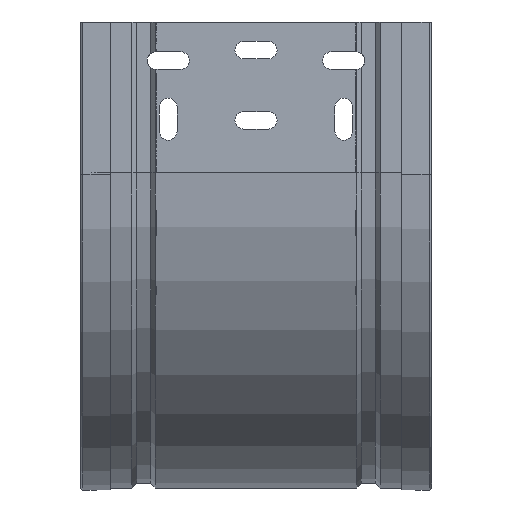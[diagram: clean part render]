
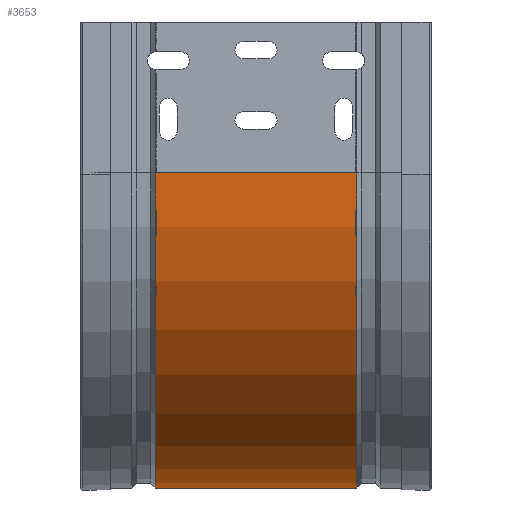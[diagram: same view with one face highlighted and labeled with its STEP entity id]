
A CAD part, front view. The second image highlights one B-rep face of the part: STEP entity #3653.
In plain terms, the highlighted cylindrical face has radius 134.8 mm (diameter 269.6 mm), a partial arc.
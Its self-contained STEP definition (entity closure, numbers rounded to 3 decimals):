
#239 = DIRECTION ( 'NONE',  ( 0., 0., -1. ) ) ;
#342 = DIRECTION ( 'NONE',  ( 1., 0., 0. ) ) ;
#422 = CARTESIAN_POINT ( 'NONE',  ( -31., -0.8, -64.4 ) ) ;
#479 = DIRECTION ( 'NONE',  ( 1., 0., 0. ) ) ;
#911 = DIRECTION ( 'NONE',  ( 1., 0., 0. ) ) ;
#925 = VERTEX_POINT ( 'NONE', #4881 ) ;
#1254 = VECTOR ( 'NONE', #342, 1000. ) ;
#1277 = ORIENTED_EDGE ( 'NONE', *, *, #5569, .T. ) ;
#1588 = VERTEX_POINT ( 'NONE', #5394 ) ;
#1701 = VECTOR ( 'NONE', #479, 1000. ) ;
#1914 = AXIS2_PLACEMENT_3D ( 'NONE', #3790, #2487, #4305 ) ;
#2074 = CYLINDRICAL_SURFACE ( 'NONE', #3555, 134.8 ) ;
#2168 = CARTESIAN_POINT ( 'NONE',  ( -31., 134., -64.4 ) ) ;
#2288 = ORIENTED_EDGE ( 'NONE', *, *, #3858, .T. ) ;
#2416 = VERTEX_POINT ( 'NONE', #3345 ) ;
#2487 = DIRECTION ( 'NONE',  ( 1., 0., 0. ) ) ;
#2517 = EDGE_LOOP ( 'NONE', ( #2632, #1277, #2288, #3053 ) ) ;
#2632 = ORIENTED_EDGE ( 'NONE', *, *, #2863, .F. ) ;
#2863 = EDGE_CURVE ( 'NONE', #925, #2416, #3964, .T. ) ;
#2918 = FACE_OUTER_BOUND ( 'NONE', #2517, .T. ) ;
#2945 = DIRECTION ( 'NONE',  ( 1., 0., 0. ) ) ;
#2958 = CARTESIAN_POINT ( 'NONE',  ( -31., 134., -199.2 ) ) ;
#2990 = AXIS2_PLACEMENT_3D ( 'NONE', #2168, #911, #3928 ) ;
#3053 = ORIENTED_EDGE ( 'NONE', *, *, #3362, .F. ) ;
#3216 = CARTESIAN_POINT ( 'NONE',  ( -117., 134., -199.2 ) ) ;
#3300 = CIRCLE ( 'NONE', #1914, 134.8 ) ;
#3345 = CARTESIAN_POINT ( 'NONE',  ( -31., -0.8, -64.4 ) ) ;
#3362 = EDGE_CURVE ( 'NONE', #2416, #1588, #4176, .T. ) ;
#3555 = AXIS2_PLACEMENT_3D ( 'NONE', #3839, #2945, #239 ) ;
#3567 = VERTEX_POINT ( 'NONE', #3216 ) ;
#3653 = ADVANCED_FACE ( 'NONE', ( #2918 ), #2074, .T. ) ;
#3790 = CARTESIAN_POINT ( 'NONE',  ( -117., 134., -64.4 ) ) ;
#3839 = CARTESIAN_POINT ( 'NONE',  ( 0., 134., -64.4 ) ) ;
#3858 = EDGE_CURVE ( 'NONE', #3567, #1588, #4249, .T. ) ;
#3928 = DIRECTION ( 'NONE',  ( 0., 0., -1. ) ) ;
#3964 = LINE ( 'NONE', #422, #1701 ) ;
#4176 = CIRCLE ( 'NONE', #2990, 134.8 ) ;
#4249 = LINE ( 'NONE', #2958, #1254 ) ;
#4305 = DIRECTION ( 'NONE',  ( 0., 0., -1. ) ) ;
#4881 = CARTESIAN_POINT ( 'NONE',  ( -117., -0.8, -64.4 ) ) ;
#5394 = CARTESIAN_POINT ( 'NONE',  ( -31., 134., -199.2 ) ) ;
#5569 = EDGE_CURVE ( 'NONE', #925, #3567, #3300, .T. ) ;
